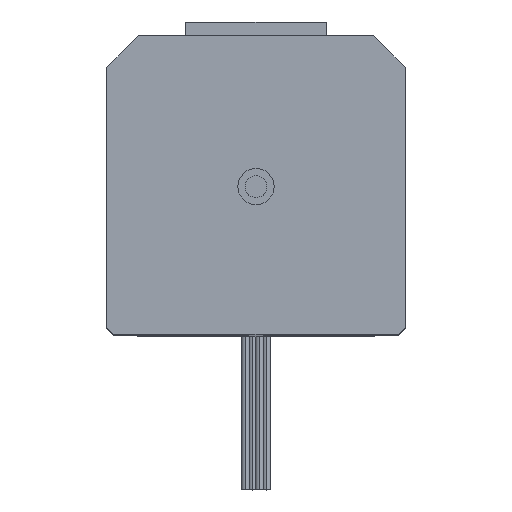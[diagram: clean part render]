
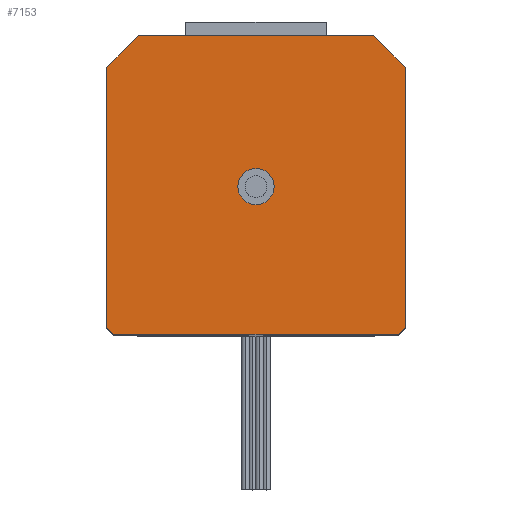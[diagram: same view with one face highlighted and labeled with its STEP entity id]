
A CAD part, top view. The second image highlights one B-rep face of the part: STEP entity #7153.
In plain terms, the highlighted planar face has unit normal (0, 0, 1).
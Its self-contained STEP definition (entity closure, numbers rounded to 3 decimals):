
#95 = EDGE_LOOP ( 'NONE', ( #740, #6656, #216, #6266, #4860, #557, #10699, #3350 ) ) ;
#216 = ORIENTED_EDGE ( 'NONE', *, *, #2275, .T. ) ;
#229 = DIRECTION ( 'NONE',  ( 0., -1., 0. ) ) ;
#425 = CARTESIAN_POINT ( 'NONE',  ( 0.5, -41.75, 60.5 ) ) ;
#557 = ORIENTED_EDGE ( 'NONE', *, *, #6641, .T. ) ;
#740 = ORIENTED_EDGE ( 'NONE', *, *, #892, .T. ) ;
#754 = CARTESIAN_POINT ( 'NONE',  ( 20.25, -21., 60.5 ) ) ;
#892 = EDGE_CURVE ( 'NONE', #5741, #2024, #7607, .T. ) ;
#929 = AXIS2_PLACEMENT_3D ( 'NONE', #8996, #7314, #4885 ) ;
#945 = VECTOR ( 'NONE', #9447, 1000. ) ;
#1111 = CARTESIAN_POINT ( 'NONE',  ( 21.25, -21., 60.5 ) ) ;
#1130 = LINE ( 'NONE', #1176, #945 ) ;
#1138 = VECTOR ( 'NONE', #7436, 1000. ) ;
#1176 = CARTESIAN_POINT ( 'NONE',  ( 20.75, -20.5, 60.5 ) ) ;
#1319 = CARTESIAN_POINT ( 'NONE',  ( -21.25, 17., 60.5 ) ) ;
#1434 = CIRCLE ( 'NONE', #929, 2.58 ) ;
#1515 = ORIENTED_EDGE ( 'NONE', *, *, #10258, .T. ) ;
#1592 = VERTEX_POINT ( 'NONE', #754 ) ;
#1740 = DIRECTION ( 'NONE',  ( 0., 0., -1. ) ) ;
#1969 = DIRECTION ( 'NONE',  ( 0., 1., 0. ) ) ;
#2024 = VERTEX_POINT ( 'NONE', #3124 ) ;
#2272 = LINE ( 'NONE', #425, #8203 ) ;
#2273 = VECTOR ( 'NONE', #10770, 1000. ) ;
#2275 = EDGE_CURVE ( 'NONE', #5278, #7926, #2295, .T. ) ;
#2295 = LINE ( 'NONE', #9001, #7675 ) ;
#2414 = PLANE ( 'NONE',  #6583 ) ;
#2464 = CARTESIAN_POINT ( 'NONE',  ( 2.58, 0., 60.5 ) ) ;
#2494 = VECTOR ( 'NONE', #2834, 1000. ) ;
#2526 = FACE_BOUND ( 'NONE', #10780, .T. ) ;
#2555 = ORIENTED_EDGE ( 'NONE', *, *, #10450, .T. ) ;
#2677 = VERTEX_POINT ( 'NONE', #3120 ) ;
#2834 = DIRECTION ( 'NONE',  ( 1., 0., 0. ) ) ;
#3047 = CARTESIAN_POINT ( 'NONE',  ( 40.25, -2., 60.5 ) ) ;
#3120 = CARTESIAN_POINT ( 'NONE',  ( 21.25, 17., 60.5 ) ) ;
#3124 = CARTESIAN_POINT ( 'NONE',  ( -16.75, 21.5, 60.5 ) ) ;
#3150 = LINE ( 'NONE', #3047, #5243 ) ;
#3227 = CARTESIAN_POINT ( 'NONE',  ( 21.25, 21.5, 60.5 ) ) ;
#3350 = ORIENTED_EDGE ( 'NONE', *, *, #3846, .T. ) ;
#3536 = CARTESIAN_POINT ( 'NONE',  ( 0., 0., 60.5 ) ) ;
#3580 = CARTESIAN_POINT ( 'NONE',  ( 21.25, -20., 60.5 ) ) ;
#3607 = LINE ( 'NONE', #9475, #5797 ) ;
#3846 = EDGE_CURVE ( 'NONE', #2677, #5741, #3150, .T. ) ;
#4183 = DIRECTION ( 'NONE',  ( -1., 0., 0. ) ) ;
#4205 = VERTEX_POINT ( 'NONE', #3580 ) ;
#4860 = ORIENTED_EDGE ( 'NONE', *, *, #10545, .T. ) ;
#4885 = DIRECTION ( 'NONE',  ( -1., 0., 0. ) ) ;
#5243 = VECTOR ( 'NONE', #6416, 1000. ) ;
#5278 = VERTEX_POINT ( 'NONE', #1319 ) ;
#5741 = VERTEX_POINT ( 'NONE', #7140 ) ;
#5797 = VECTOR ( 'NONE', #1969, 1000. ) ;
#6158 = LINE ( 'NONE', #8659, #2494 ) ;
#6205 = AXIS2_PLACEMENT_3D ( 'NONE', #3536, #1740, #4183 ) ;
#6266 = ORIENTED_EDGE ( 'NONE', *, *, #8054, .T. ) ;
#6416 = DIRECTION ( 'NONE',  ( -0.707, 0.707, 0. ) ) ;
#6583 = AXIS2_PLACEMENT_3D ( 'NONE', #1111, #8624, #8569 ) ;
#6641 = EDGE_CURVE ( 'NONE', #1592, #4205, #1130, .T. ) ;
#6656 = ORIENTED_EDGE ( 'NONE', *, *, #9659, .T. ) ;
#7140 = CARTESIAN_POINT ( 'NONE',  ( 16.75, 21.5, 60.5 ) ) ;
#7153 = ADVANCED_FACE ( 'NONE', ( #7439, #2526 ), #2414, .T. ) ;
#7258 = VERTEX_POINT ( 'NONE', #9079 ) ;
#7314 = DIRECTION ( 'NONE',  ( 0., 0., -1. ) ) ;
#7436 = DIRECTION ( 'NONE',  ( -1., 0., 0. ) ) ;
#7439 = FACE_OUTER_BOUND ( 'NONE', #95, .T. ) ;
#7603 = CARTESIAN_POINT ( 'NONE',  ( -2.58, 0., 60.5 ) ) ;
#7607 = LINE ( 'NONE', #3227, #1138 ) ;
#7675 = VECTOR ( 'NONE', #229, 1000. ) ;
#7926 = VERTEX_POINT ( 'NONE', #8277 ) ;
#8054 = EDGE_CURVE ( 'NONE', #7926, #7258, #2272, .T. ) ;
#8203 = VECTOR ( 'NONE', #10585, 1000. ) ;
#8277 = CARTESIAN_POINT ( 'NONE',  ( -21.25, -20., 60.5 ) ) ;
#8569 = DIRECTION ( 'NONE',  ( -1., 0., 0. ) ) ;
#8624 = DIRECTION ( 'NONE',  ( 0., 0., 1. ) ) ;
#8659 = CARTESIAN_POINT ( 'NONE',  ( 21.25, -21., 60.5 ) ) ;
#8759 = VERTEX_POINT ( 'NONE', #2464 ) ;
#8845 = VERTEX_POINT ( 'NONE', #7603 ) ;
#8996 = CARTESIAN_POINT ( 'NONE',  ( 0., 0., 60.5 ) ) ;
#9001 = CARTESIAN_POINT ( 'NONE',  ( -21.25, 21.5, 60.5 ) ) ;
#9079 = CARTESIAN_POINT ( 'NONE',  ( -20.25, -21., 60.5 ) ) ;
#9162 = CARTESIAN_POINT ( 'NONE',  ( -19., 19.25, 60.5 ) ) ;
#9354 = EDGE_CURVE ( 'NONE', #4205, #2677, #3607, .T. ) ;
#9447 = DIRECTION ( 'NONE',  ( 0.707, 0.707, 0. ) ) ;
#9475 = CARTESIAN_POINT ( 'NONE',  ( 21.25, 21.5, 60.5 ) ) ;
#9659 = EDGE_CURVE ( 'NONE', #2024, #5278, #10112, .T. ) ;
#10112 = LINE ( 'NONE', #9162, #2273 ) ;
#10258 = EDGE_CURVE ( 'NONE', #8759, #8845, #1434, .T. ) ;
#10347 = CIRCLE ( 'NONE', #6205, 2.58 ) ;
#10450 = EDGE_CURVE ( 'NONE', #8845, #8759, #10347, .T. ) ;
#10545 = EDGE_CURVE ( 'NONE', #7258, #1592, #6158, .T. ) ;
#10585 = DIRECTION ( 'NONE',  ( 0.707, -0.707, 0. ) ) ;
#10699 = ORIENTED_EDGE ( 'NONE', *, *, #9354, .T. ) ;
#10770 = DIRECTION ( 'NONE',  ( -0.707, -0.707, 0. ) ) ;
#10780 = EDGE_LOOP ( 'NONE', ( #1515, #2555 ) ) ;
